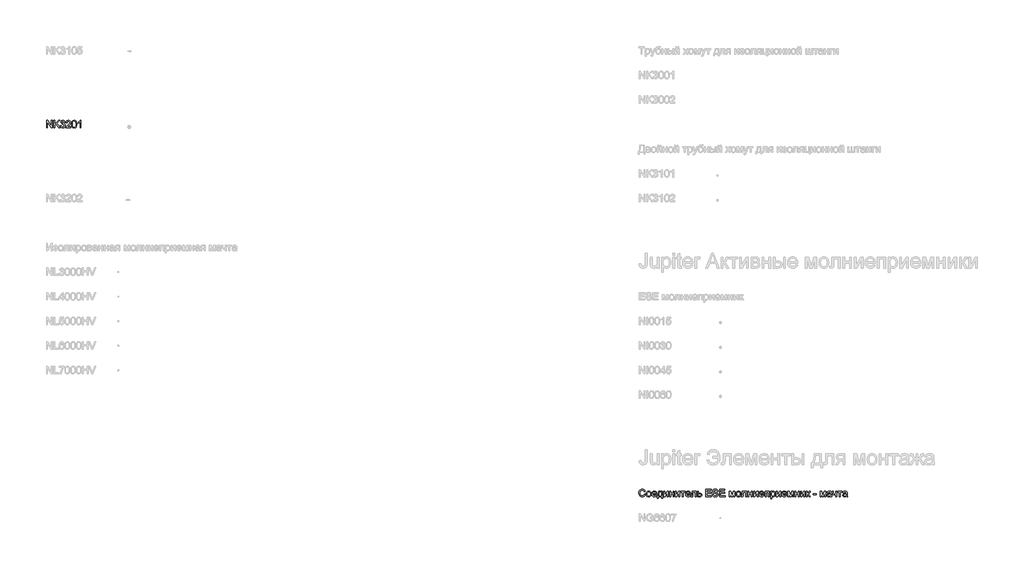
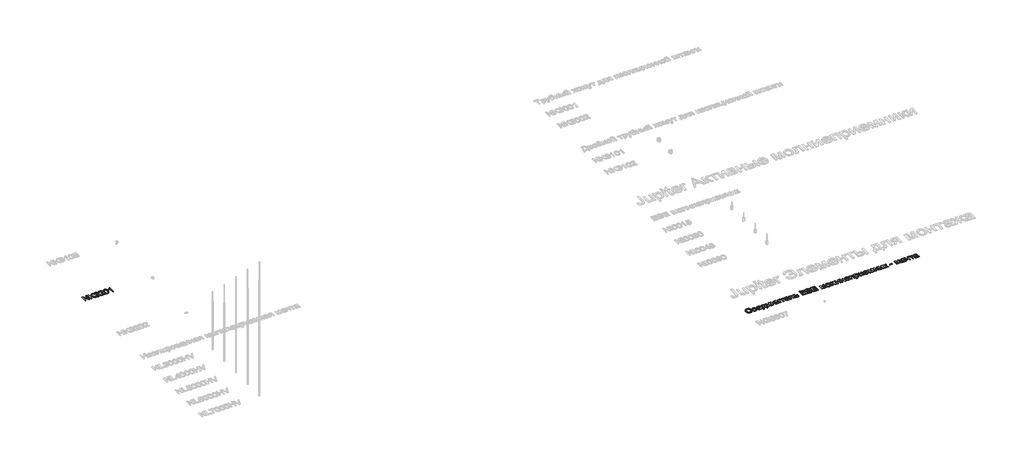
# One storey, part 10 of 124: 2 proxies.
"""IFC4 building model written with IfcOpenShell, lengths in millimetres."""

from ifc_helpers import new_model, si_unit, origin, origin_with_axes, place, context, project, spatial, polyline, outline, extrude, element, save

model = new_model("IFC4")

# Units and contexts
model_context = context("Model", 3, world=origin())
ifc_project = project(units=[si_unit("LENGTHUNIT", "METRE", prefix="MILLI")], contexts=[model_context])

# Site, building, storey
site = spatial("IfcSite", under=ifc_project)
building = spatial("IfcBuilding", under=site)
storey = spatial("IfcBuildingStorey", under=building, Name="Этаж 01", Elevation=0.0)

# Proxies
placement = place(None, origin())
element("IfcBuildingElementProxy", 1, Name="300", ObjectType="300", at=placement, inside=storey, context=model_context, shape_type="SweptSolid", body=[
    extrude(outline(polyline([(1299.8220677, -112548.8731539), (1299.8220677, -112247.5042234), (1340.1419344, -112247.5042234), (1497.5954283, -112486.2596383), (1497.5954283, -112247.5042234), (1535.2665446, -112247.5042234), (1535.2665446, -112548.8731539), (1494.9466779, -112548.8731539), (1337.493184, -112310.0441626), (1337.493184, -112548.8731539), (1299.8220677, -112548.8731539)])), origin_with_axes(), (0.0, 0.0, 1.0), 20.0),
    extrude(outline(polyline([(1601.1909981, -112548.8731539), (1601.1909981, -112247.5042234), (1638.8621144, -112247.5042234), (1638.8621144, -112395.0249035), (1793.3725524, -112247.5042234), (1846.0532541, -112247.5042234), (1716.3380626, -112371.4068794), (1850.7621437, -112548.8731539), (1804.7033179, -112548.8731539), (1689.6298298, -112396.8643135), (1638.8621144, -112445.277584), (1638.8621144, -112548.8731539), (1601.1909981, -112548.8731539)])), origin_with_axes(), (0.0, 0.0, 1.0), 20.0),
    extrude(outline(polyline([(1864.8888123, -112468.8220317), (1902.5599286, -112464.1131422), (1910.9936233, -112487.7863486), (1923.3452613, -112503.7708213), (1940.2218478, -112512.8759007), (1962.2303882, -112515.9109271), (1988.0557043, -112511.7354665), (2007.9949084, -112499.2090845), (2020.7420195, -112480.5206792), (2024.9910566, -112457.8591483), (2020.7788077, -112436.3472486), (2008.1420612, -112418.900445), (1989.0121975, -112407.3397533), (1965.320597, -112403.4861894), (1938.9066697, -112407.6064677), (1943.1005245, -112369.9353514), (1949.1337892, -112370.3768098), (1971.7033496, -112367.6728772), (1991.881677, -112359.5610792), (2006.1187102, -112345.8390807), (2010.864388, -112326.3045468), (2007.4246913, -112310.0349656), (1997.1056014, -112296.837199), (1981.360252, -112288.0908046), (1961.641777, -112285.1753397), (1941.8865139, -112288.1183957), (1925.7364943, -112296.9475636), (1913.9458763, -112311.6628434), (1907.2688181, -112332.2642351), (1869.5977018, -112327.5553456), (1880.689344, -112293.7285961), (1900.426213, -112268.4734972), (1927.4287515, -112252.7465419), (1960.3174018, -112247.5042234), (1983.9998053, -112250.0885945), (2005.7508282, -112257.8417075), (2024.0897457, -112270.0737838), (2037.5358326, -112286.0950447), (2045.7855864, -112304.5535238), (2048.5355043, -112324.0972548), (2045.9235421, -112342.3074136), (2038.0876556, -112358.8253152), (2025.1382094, -112372.8968015), (2007.185568, -112383.7677145), (2030.7668039, -112393.2958581), (2048.2411987, -112409.5194541), (2059.0569293, -112431.5555856), (2062.6621729, -112458.5213359), (2060.8595511, -112477.6328055), (2055.4516858, -112495.235959), (2046.4385769, -112511.3307963), (2033.8202245, -112525.9173174), (2018.4473556, -112538.020635), (2001.1706974, -112546.6658619), (1981.9902499, -112551.852998), (1960.906013, -112553.5820434), (1941.8497257, -112552.1059169), (1924.4856955, -112547.6775374), (1908.8139225, -112540.2969049), (1894.8344067, -112529.9640193), (1883.1127666, -112517.2858861), (1874.2146209, -112502.8695104), (1868.1399694, -112486.7148923), (1864.8888123, -112468.8220317)])), origin_with_axes(), (0.0, 0.0, 1.0), 20.0),
    extrude(outline(polyline([(2288.6888707, -112511.2020376), (2288.6888707, -112548.8731539), (2090.9155101, -112548.8731539), (2094.9622121, -112522.900685), (2104.2512324, -112502.6027959), (2117.8444722, -112482.9119122), (2137.5077648, -112462.3013234), (2165.006944, -112439.2443193), (2205.6579044, -112403.1367015), (2230.0484807, -112376.4836509), (2242.2437688, -112354.8521896), (2246.3088649, -112333.8093395), (2242.4736951, -112314.9461902), (2230.9681857, -112299.2652202), (2213.2822588, -112288.6978098), (2190.9058364, -112285.1753397), (2167.407374, -112288.6150364), (2149.15123, -112298.9341264), (2137.3698091, -112315.3232692), (2133.295516, -112336.9731247), (2095.6243997, -112332.2642351), (2104.7570702, -112295.8255235), (2113.3034288, -112281.2895862), (2124.5031363, -112269.2092612), (2138.0986753, -112259.7133072), (2153.8325283, -112252.9304829), (2191.7151768, -112247.5042234), (2211.9050005, -112249.0125396), (2229.8737367, -112253.5374882), (2245.6213854, -112261.0790691), (2259.1479465, -112271.6372823), (2270.0119617, -112284.4303787), (2277.7719725, -112298.676609), (2282.427979, -112314.3759731), (2283.9799812, -112331.5284711), (2282.3061181, -112349.5454918), (2277.2845289, -112367.2498129), (2268.3725875, -112385.2576365), (2255.0276682, -112404.1851652), (2233.7548918, -112426.7823167), (2201.0593795, -112455.7990091), (2157.7228804, -112492.0353856), (2140.7267323, -112511.2020376), (2288.6888707, -112511.2020376)])), origin_with_axes(), (0.0, 0.0, 1.0), 20.0),
    extrude(outline(polyline([(2326.359987, -112400.6167098), (2329.128299, -112352.3781832), (2337.4332351, -112313.9069236), (2351.1920217, -112284.6143197), (2370.3218855, -112263.9117604), (2394.9607821, -112251.6061077), (2425.2466673, -112247.5042234), (2448.4600212, -112249.9322446), (2469.245354, -112257.2163081), (2486.6277782, -112269.0713054), (2499.6324068, -112285.2121279), (2509.454856, -112305.50082), (2517.2907425, -112329.7994258), (2522.4226964, -112360.6555281), (2524.1333476, -112400.6167098), (2521.3926268, -112448.579325), (2513.1704642, -112486.9586141), (2499.494451, -112516.2788091), (2480.3921784, -112537.0641418), (2455.6980995, -112549.452568), (2425.2466673, -112553.5820434), (2404.4981228, -112551.7886187), (2386.1040231, -112546.4083445), (2370.0643681, -112537.4412209), (2356.3791578, -112524.8872478), (2343.2457706, -112502.1935272), (2333.8647797, -112473.9171974), (2328.2361852, -112440.0582582), (2326.359987, -112400.6167098)]), holes=[polyline([(2364.0311033, -112400.5431334), (2368.4456873, -112459.7997258), (2373.9639172, -112480.0677245), (2381.6894391, -112494.0955248), (2401.4079141, -112510.4570765), (2425.2466673, -112515.9109271), (2449.0854206, -112510.4386824), (2468.8038956, -112494.0219484), (2476.5294175, -112479.9711555), (2482.0476474, -112459.7077553), (2486.4622313, -112400.5431334), (2482.1948002, -112342.6201133), (2476.8605113, -112322.4187932), (2469.3925068, -112308.0575998), (2449.71082, -112290.8959048), (2424.8052089, -112285.1753397), (2401.2239731, -112290.2153231), (2382.2780503, -112305.3352731), (2374.295011, -112320.9702579), (2368.5928401, -112342.0498962), (2364.0311033, -112400.5431334)])]), origin_with_axes(), (0.0, 0.0, 1.0), 20.0),
    extrude(outline(polyline([(2698.3622606, -112548.8731539), (2660.6911443, -112548.8731539), (2660.6911443, -112314.0172882), (2625.0065907, -112339.437934), (2585.3489116, -112358.4574332), (2585.3489116, -112322.846456), (2614.9358211, -112306.7516188), (2640.5679991, -112287.6033609), (2660.7739177, -112267.2410925), (2674.0820489, -112247.5042234), (2698.3622606, -112247.5042234), (2698.3622606, -112548.8731539)])), origin_with_axes(), (0.0, 0.0, 1.0), 20.0),
])
element("IfcBuildingElementProxy", 2, Name="300", ObjectType="300", at=placement, inside=storey, context=model_context, shape_type="SweptSolid", body=[
    extrude(outline(polyline([(25611.7220969, -127441.7459169), (25649.3932132, -127451.4580016), (25641.9390043, -127474.8851869), (25632.0107889, -127495.3555206), (25619.6085672, -127512.8690029), (25604.732339, -127527.4256336), (25587.7177967, -127538.8690629), (25568.9006327, -127547.042941), (25548.2808468, -127551.9472678), (25525.8584392, -127553.5820434), (25482.1632553, -127548.6340306), (25447.4627861, -127533.7899921), (25420.8649178, -127509.5649627), (25401.4775367, -127476.4739772), (25389.6409335, -127437.5704562), (25385.6953991, -127395.9078203), (25390.1559683, -127351.964316), (25403.5376758, -127314.0172882), (25425.141546, -127283.2715504), (25454.268603, -127260.9319163), (25488.8127223, -127247.3294795), (25526.6677796, -127242.7953339), (25567.9717306, -127248.6630517), (25585.9404668, -127255.997699), (25602.1203768, -127266.2662052), (25616.2447462, -127279.1972573), (25628.0468605, -127294.5195424), (25644.6843237, -127332.3378115), (25607.0132074, -127341.3141322), (25593.9533965, -127313.8425442), (25576.1111198, -127294.997789), (25553.2656479, -127284.0992849), (25525.1962516, -127280.4664502), (25492.8410302, -127284.4947581), (25466.261556, -127296.5796816), (25446.0924256, -127315.4520279), (25432.9682355, -127339.8426042), (25425.7669454, -127367.4153598), (25423.3665154, -127395.8342439), (25426.2084038, -127430.6358806), (25434.734069, -127460.7286278), (25449.2654078, -127484.9628543), (25470.124317, -127502.1889287), (25495.1310956, -127512.4804275), (25522.1060429, -127515.9109271), (25553.5507564, -127511.2388258), (25579.7531515, -127497.2225218), (25599.5360058, -127474.0091679), (25611.7220969, -127441.7459169)])), origin_with_axes(), (0.0, 0.0, 1.0), 20.0),
    extrude(outline(polyline([(25687.0643295, -127438.2142497), (25689.1014761, -127409.5516438), (25695.2129157, -127384.8529663), (25705.3986485, -127364.1182174), (25719.6586743, -127347.3473969), (25734.0152692, -127336.6282353), (25749.8617861, -127328.9716913), (25767.1982251, -127324.3777649), (25786.0245862, -127322.846456), (25806.8076197, -127324.7111579), (25825.5994919, -127330.3052635), (25842.4002027, -127339.6287728), (25857.2097523, -127352.6816859), (25869.2969751, -127369.0225442), (25877.9307057, -127388.2098895), (25883.110944, -127410.2437218), (25884.8376901, -127435.124041), (25881.7842696, -127473.1814334), (25872.6240079, -127502.1521405), (25857.6236195, -127523.8479812), (25837.049819, -127540.0807742), (25812.6132574, -127550.2067261), (25786.0245862, -127553.5820434), (25764.9380501, -127551.7242393), (25745.971434, -127546.1508271), (25729.1247379, -127536.8618067), (25714.3979618, -127523.8571782), (25702.4394977, -127507.3576707), (25693.8977376, -127487.5840135), (25688.7726815, -127464.5362065), (25687.0643295, -127438.2142497)]), holes=[polyline([(25724.7354458, -127438.1406733), (25729.0948475, -127472.2341372), (25742.1730524, -127496.523546), (25761.8547391, -127511.0640818), (25786.0245862, -127515.9109271), (25810.0840687, -127511.0364907), (25829.7289673, -127496.4131814), (25842.8071722, -127471.8018759), (25847.1665738, -127436.963451), (25842.779581, -127403.8632684), (25829.6186027, -127379.9049535), (25809.946113, -127365.3644176), (25786.0245862, -127360.5175724), (25761.8547391, -127365.3460235), (25742.1730524, -127379.8313771), (25729.0948475, -127404.0656035), (25724.7354458, -127438.1406733)])]), origin_with_axes(), (0.0, 0.0, 1.0), 20.0),
    extrude(outline(polyline([(26082.1695923, -127482.9487003), (26119.1049447, -127487.6575899), (26105.7968135, -127515.4878628), (26084.5608253, -127536.2915897), (26055.8752267, -127549.25943), (26020.2182644, -127553.5820434), (25996.8439621, -127551.7173416), (25976.0172426, -127546.123236), (25957.738106, -127536.7997267), (25942.0065522, -127523.7468136), (25929.3560101, -127507.3277803), (25920.3199086, -127487.9059102), (25914.8982477, -127465.4812034), (25913.0910274, -127440.0536597), (25914.9166418, -127413.7638926), (25920.393485, -127390.5919255), (25929.521557, -127370.5377582), (25942.3008578, -127353.6013908), (25957.9910249, -127340.1461069), (25975.8516957, -127330.5351897), (25995.8828704, -127324.7686395), (26018.0845488, -127322.846456), (26039.5711566, -127324.7640409), (26059.0022237, -127330.5167956), (26076.3777502, -127340.1047201), (26091.697736, -127353.5278144), (26104.2034246, -127370.4273936), (26113.1360593, -127390.4447727), (26118.4956401, -127413.5799516), (26120.282167, -127439.8329305), (26120.0614379, -127449.9864736), (25950.7621437, -127449.9864736), (25957.282852, -127478.1846285), (25972.4303932, -127498.9147789), (25994.2917807, -127511.6618901), (26020.9540284, -127515.9109271), (26041.0035971, -127513.9427584), (26057.8893807, -127508.0382524), (26071.6113791, -127497.8295271), (26082.1695923, -127482.9487003)]), holes=[polyline([(25950.7621437, -127412.3153573), (26082.6110507, -127412.3153573), (26077.5158851, -127392.4129413), (26067.5278889, -127378.1759081), (26045.5653338, -127364.9321563), (26017.937396, -127360.5175724), (25992.5443413, -127364.0400425), (25971.5474764, -127374.6074528), (25956.9517582, -127391.0793691), (25950.7621437, -127412.3153573)])]), origin_with_axes(), (0.0, 0.0, 1.0), 20.0),
    extrude(outline(polyline([(26190.9155101, -127327.5553456), (26332.1821963, -127327.5553456), (26332.1821963, -127511.2020376), (26360.4355335, -127511.2020376), (26360.4355335, -127610.0887179), (26322.7644172, -127610.0887179), (26322.7644172, -127548.8731539), (26167.3710624, -127548.8731539), (26167.3710624, -127610.0887179), (26129.6999461, -127610.0887179), (26129.6999461, -127511.2020376), (26153.2443938, -127511.2020376), (26170.3601036, -127480.2723588), (26182.3438596, -127439.3546839), (26189.1956618, -127388.4490128), (26190.9155101, -127327.5553456)]), holes=[polyline([(26223.8777369, -127365.2264619), (26220.7875281, -127411.349667), (26215.048569, -127451.0533314), (26206.6608595, -127484.3374549), (26195.6243997, -127511.2020376), (26294.51108, -127511.2020376), (26294.51108, -127365.2264619), (26223.8777369, -127365.2264619)])]), origin_with_axes(), (0.0, 0.0, 1.0), 20.0),
    extrude(outline(polyline([(26402.8155393, -127327.5553456), (26440.4866556, -127327.5553456), (26440.4866556, -127496.339605), (26533.0457656, -127327.5553456), (26581.7533418, -127327.5553456), (26581.7533418, -127548.8731539), (26544.0822255, -127548.8731539), (26544.0822255, -127381.1189641), (26452.1117267, -127548.8731539), (26402.8155393, -127548.8731539), (26402.8155393, -127327.5553456)])), origin_with_axes(), (0.0, 0.0, 1.0), 20.0),
    extrude(outline(polyline([(26638.2600163, -127327.5553456), (26675.9311326, -127327.5553456), (26675.9311326, -127412.3153573), (26774.8178129, -127412.3153573), (26774.8178129, -127327.5553456), (26812.4889292, -127327.5553456), (26812.4889292, -127548.8731539), (26774.8178129, -127548.8731539), (26774.8178129, -127449.9864736), (26675.9311326, -127449.9864736), (26675.9311326, -127548.8731539), (26638.2600163, -127548.8731539), (26638.2600163, -127327.5553456)])), origin_with_axes(), (0.0, 0.0, 1.0), 20.0),
    extrude(outline(polyline([(26868.9956036, -127327.5553456), (26906.6667199, -127327.5553456), (26906.6667199, -127496.339605), (26999.2258299, -127327.5553456), (27047.9334061, -127327.5553456), (27047.9334061, -127548.8731539), (27010.2622898, -127548.8731539), (27010.2622898, -127381.1189641), (26918.291791, -127548.8731539), (26868.9956036, -127548.8731539), (26868.9956036, -127327.5553456)])), origin_with_axes(), (0.0, 0.0, 1.0), 20.0),
    extrude(outline(polyline([(27085.6045224, -127327.5553456), (27264.5423248, -127327.5553456), (27264.5423248, -127365.2264619), (27193.9089818, -127365.2264619), (27193.9089818, -127548.8731539), (27156.2378655, -127548.8731539), (27156.2378655, -127365.2264619), (27085.6045224, -127365.2264619), (27085.6045224, -127327.5553456)])), origin_with_axes(), (0.0, 0.0, 1.0), 20.0),
    extrude(outline(polyline([(27452.456448, -127482.9487003), (27489.3918003, -127487.6575899), (27476.0836691, -127515.4878628), (27454.847681, -127536.2915897), (27426.1620824, -127549.25943), (27390.50512, -127553.5820434), (27367.1308177, -127551.7173416), (27346.3040983, -127546.123236), (27328.0249616, -127536.7997267), (27312.2934078, -127523.7468136), (27299.6428657, -127507.3277803), (27290.6067642, -127487.9059102), (27285.1851033, -127465.4812034), (27283.377883, -127440.0536597), (27285.2034974, -127413.7638926), (27290.6803406, -127390.5919255), (27299.8084126, -127370.5377582), (27312.5877134, -127353.6013908), (27328.2778805, -127340.1461069), (27346.1385514, -127330.5351897), (27366.169726, -127324.7686395), (27388.3714044, -127322.846456), (27409.8580122, -127324.7640409), (27429.2890793, -127330.5167956), (27446.6646058, -127340.1047201), (27461.9845917, -127353.5278144), (27474.4902802, -127370.4273936), (27483.4229149, -127390.4447727), (27488.7824957, -127413.5799516), (27490.5690227, -127439.8329305), (27490.3482935, -127449.9864736), (27321.0489993, -127449.9864736), (27327.5697077, -127478.1846285), (27342.7172488, -127498.9147789), (27364.5786364, -127511.6618901), (27391.240884, -127515.9109271), (27411.2904527, -127513.9427584), (27428.1762363, -127508.0382524), (27441.8982347, -127497.8295271), (27452.456448, -127482.9487003)]), holes=[polyline([(27321.0489993, -127412.3153573), (27452.8979064, -127412.3153573), (27447.8027407, -127392.4129413), (27437.8147446, -127378.1759081), (27415.8521895, -127364.9321563), (27388.2242516, -127360.5175724), (27362.8311969, -127364.0400425), (27341.834332, -127374.6074528), (27327.2386139, -127391.0793691), (27321.0489993, -127412.3153573)])]), origin_with_axes(), (0.0, 0.0, 1.0), 20.0),
    extrude(outline(polyline([(27547.0756971, -127327.5553456), (27716.5957205, -127327.5553456), (27716.5957205, -127548.6524247), (27678.9246042, -127548.6524247), (27678.9246042, -127365.2264619), (27584.7468134, -127365.2264619), (27584.7468134, -127470.8085945), (27582.2084277, -127519.5161707), (27577.4535529, -127530.5434335), (27568.2657001, -127540.0807742), (27554.3229724, -127546.675059), (27535.3034733, -127548.8731539), (27504.6956913, -127546.9601675), (27504.6956913, -127511.2020376), (27521.5446867, -127511.2020376), (27538.5776231, -127508.884381), (27545.38344, -127501.5267411), (27547.0756971, -127468.6748789), (27547.0756971, -127327.5553456)])), origin_with_axes(), (0.0, 0.0, 1.0), 20.0),
    extrude(outline(polyline([(27773.102395, -127327.5553456), (27810.7735113, -127327.5553456), (27810.7735113, -127407.6064677), (27854.1835867, -127407.6064677), (27891.8179148, -127412.3245543), (27906.965456, -127418.2221626), (27919.6665819, -127426.4788141), (27929.7097603, -127436.8094004), (27936.8834592, -127448.9288128), (27942.6224184, -127478.5341164), (27937.7387849, -127505.4906696), (27923.0878844, -127528.234974), (27911.8559872, -127537.2641777), (27897.6948297, -127543.7136089), (27860.5847334, -127548.8731539), (27773.102395, -127548.8731539), (27773.102395, -127327.5553456)]), holes=[polyline([(27810.7735113, -127511.2020376), (27845.94303, -127511.2020376), (27873.230677, -127509.2246719), (27891.3764564, -127503.2925747), (27901.5575906, -127493.1666228), (27904.951302, -127478.6076928), (27902.4405074, -127466.3020401), (27894.9081236, -127455.4311271), (27878.767301, -127447.8159698), (27850.4311904, -127445.277584), (27810.7735113, -127445.277584), (27810.7735113, -127511.2020376)])]), origin_with_axes(), (0.0, 0.0, 1.0), 20.0),
    extrude(outline(polyline([(28112.1424417, -127548.8731539), (28112.1424417, -127247.5042234), (28328.7513605, -127247.5042234), (28328.7513605, -127285.1753397), (28149.813558, -127285.1753397), (28149.813558, -127374.644241), (28319.3335814, -127374.644241), (28319.3335814, -127412.3153573), (28149.813558, -127412.3153573), (28149.813558, -127511.2020376), (28333.46025, -127511.2020376), (28333.46025, -127548.8731539), (28112.1424417, -127548.8731539)])), origin_with_axes(), (0.0, 0.0, 1.0), 20.0),
    extrude(outline(polyline([(28375.8402559, -127445.277584), (28413.5113722, -127445.277584), (28417.8339856, -127466.1824784), (28425.651478, -127482.9854885), (28437.8467662, -127496.3212109), (28455.3027668, -127506.8242418), (28476.6399226, -127513.6392558), (28500.4786758, -127515.9109271), (28521.4663437, -127514.1910788), (28539.8420493, -127509.0315338), (28554.7320731, -127500.8645535), (28565.2626952, -127490.1223993), (28571.5258862, -127477.7891554), (28573.6136165, -127464.8489062), (28572.050118, -127452.2397508), (28567.3596226, -127441.3412467), (28557.8314789, -127432.0430293), (28541.7550357, -127424.2347339), (28486.9038302, -127409.8505479), (28450.8973799, -127400.3316013), (28427.85877, -127391.2725072), (28409.1059853, -127378.5989724), (28395.8162482, -127363.2398991), (28387.8975883, -127345.5263811), (28385.258035, -127325.789512), (28388.5229877, -127303.7257893), (28398.3178458, -127283.1519888), (28414.3850919, -127265.7143822), (28436.4672087, -127253.0592416), (28462.9731064, -127245.3613108), (28492.3116955, -127242.7953339), (28524.0966999, -127245.4808725), (28551.9085788, -127253.5374882), (28574.7540507, -127266.7996341), (28591.6398342, -127285.1017633), (28602.3268062, -127307.3034418), (28606.5758433, -127332.2642351), (28568.9047269, -127332.2642351), (28561.9885454, -127309.7866452), (28547.5675712, -127293.5630492), (28525.034799, -127283.7406), (28493.7832235, -127280.4664502), (28461.795884, -127283.7038118), (28439.851723, -127293.4158964), (28427.1597942, -127307.7081119), (28422.9291513, -127324.685866), (28425.9273895, -127339.1620225), (28434.9221043, -127350.8054877), (28456.1856836, -127361.2165481), (28496.4319739, -127371.8483378), (28537.9658512, -127381.9466986), (28563.0921914, -127390.7574724), (28584.5673029, -127404.4242885), (28599.5492971, -127421.291678), (28608.3508739, -127441.1756998), (28611.2847328, -127463.892413), (28607.9094155, -127487.1149639), (28597.7834636, -127508.9579574), (28581.3207443, -127527.7567274), (28558.9351249, -127541.8466078), (28532.0153599, -127550.6481845), (28501.9502038, -127553.5820434), (28465.0424427, -127550.4182583), (28434.6645869, -127540.9269028), (28410.4671487, -127525.0711888), (28392.1006401, -127502.8143281), (28380.3100221, -127475.701425), (28375.8402559, -127445.277584)])), origin_with_axes(), (0.0, 0.0, 1.0), 20.0),
    extrude(outline(polyline([(28667.7914072, -127548.8731539), (28667.7914072, -127247.5042234), (28884.400326, -127247.5042234), (28884.400326, -127285.1753397), (28705.4625236, -127285.1753397), (28705.4625236, -127374.644241), (28874.9825469, -127374.644241), (28874.9825469, -127412.3153573), (28705.4625236, -127412.3153573), (28705.4625236, -127511.2020376), (28889.1092155, -127511.2020376), (28889.1092155, -127548.8731539), (28667.7914072, -127548.8731539)])), origin_with_axes(), (0.0, 0.0, 1.0), 20.0),
    extrude(outline(polyline([(29058.6292389, -127327.5553456), (29123.4500465, -127327.5553456), (29173.4084214, -127504.7273145), (29227.2663455, -127327.5553456), (29289.3648263, -127327.5553456), (29289.3648263, -127548.8731539), (29251.69371, -127548.8731539), (29251.69371, -127370.6711154), (29197.5414803, -127548.8731539), (29148.0981402, -127548.8731539), (29096.3003552, -127362.1362531), (29096.3003552, -127548.8731539), (29058.6292389, -127548.8731539), (29058.6292389, -127327.5553456)])), origin_with_axes(), (0.0, 0.0, 1.0), 20.0),
    extrude(outline(polyline([(29336.4537217, -127438.2142497), (29338.4908682, -127409.5516438), (29344.6023079, -127384.8529663), (29354.7880406, -127364.1182174), (29369.0480665, -127347.3473969), (29383.4046613, -127336.6282353), (29399.2511783, -127328.9716913), (29416.5876173, -127324.3777649), (29435.4139784, -127322.846456), (29456.1970118, -127324.7111579), (29474.988884, -127330.3052635), (29491.7895949, -127339.6287728), (29506.5991445, -127352.6816859), (29518.6863673, -127369.0225442), (29527.3200978, -127388.2098895), (29532.5003362, -127410.2437218), (29534.2270823, -127435.124041), (29531.1736617, -127473.1814334), (29522.0134, -127502.1521405), (29507.0130117, -127523.8479812), (29486.4392111, -127540.0807742), (29462.0026496, -127550.2067261), (29435.4139784, -127553.5820434), (29414.3274423, -127551.7242393), (29395.3608262, -127546.1508271), (29378.51413, -127536.8618067), (29363.7873539, -127523.8571782), (29351.8288898, -127507.3576707), (29343.2871297, -127487.5840135), (29338.1620737, -127464.5362065), (29336.4537217, -127438.2142497)]), holes=[polyline([(29374.124838, -127438.1406733), (29378.4842396, -127472.2341372), (29391.5624446, -127496.523546), (29411.2441313, -127511.0640818), (29435.4139784, -127515.9109271), (29459.4734609, -127511.0364907), (29479.1183594, -127496.4131814), (29492.1965643, -127471.8018759), (29496.555966, -127436.963451), (29492.1689732, -127403.8632684), (29479.0079948, -127379.9049535), (29459.3355051, -127365.3644176), (29435.4139784, -127360.5175724), (29411.2441313, -127365.3460235), (29391.5624446, -127379.8313771), (29378.4842396, -127404.0656035), (29374.124838, -127438.1406733)])]), origin_with_axes(), (0.0, 0.0, 1.0), 20.0),
    extrude(outline(polyline([(29595.4426463, -127327.5553456), (29764.9626697, -127327.5553456), (29764.9626697, -127548.6524247), (29727.2915534, -127548.6524247), (29727.2915534, -127365.2264619), (29633.1137626, -127365.2264619), (29633.1137626, -127470.8085945), (29630.5753768, -127519.5161707), (29625.820502, -127530.5434335), (29616.6326492, -127540.0807742), (29602.6899216, -127546.675059), (29583.6704224, -127548.8731539), (29553.0626404, -127546.9601675), (29553.0626404, -127511.2020376), (29569.9116358, -127511.2020376), (29586.9445722, -127508.884381), (29593.7503891, -127501.5267411), (29595.4426463, -127468.6748789), (29595.4426463, -127327.5553456)])), origin_with_axes(), (0.0, 0.0, 1.0), 20.0),
    extrude(outline(polyline([(29821.4693441, -127327.5553456), (29859.1404604, -127327.5553456), (29859.1404604, -127412.3153573), (29958.0271407, -127412.3153573), (29958.0271407, -127327.5553456), (29995.698257, -127327.5553456), (29995.698257, -127548.8731539), (29958.0271407, -127548.8731539), (29958.0271407, -127449.9864736), (29859.1404604, -127449.9864736), (29859.1404604, -127548.8731539), (29821.4693441, -127548.8731539), (29821.4693441, -127327.5553456)])), origin_with_axes(), (0.0, 0.0, 1.0), 20.0),
    extrude(outline(polyline([(30052.2049315, -127327.5553456), (30089.8760478, -127327.5553456), (30089.8760478, -127496.339605), (30182.4351578, -127327.5553456), (30231.142734, -127327.5553456), (30231.142734, -127548.8731539), (30193.4716176, -127548.8731539), (30193.4716176, -127381.1189641), (30101.5011189, -127548.8731539), (30052.2049315, -127548.8731539), (30052.2049315, -127327.5553456)])), origin_with_axes(), (0.0, 0.0, 1.0), 20.0),
    extrude(outline(polyline([(30442.6013048, -127482.9487003), (30479.5366571, -127487.6575899), (30466.2285259, -127515.4878628), (30444.9925377, -127536.2915897), (30416.3069392, -127549.25943), (30380.6499768, -127553.5820434), (30357.2756745, -127551.7173416), (30336.4489551, -127546.123236), (30318.1698184, -127536.7997267), (30302.4382646, -127523.7468136), (30289.7877225, -127507.3277803), (30280.751621, -127487.9059102), (30275.3299601, -127465.4812034), (30273.5227398, -127440.0536597), (30275.3483542, -127413.7638926), (30280.8251974, -127390.5919255), (30289.9532694, -127370.5377582), (30302.7325702, -127353.6013908), (30318.4227373, -127340.1461069), (30336.2834082, -127330.5351897), (30356.3145828, -127324.7686395), (30378.5162612, -127322.846456), (30400.002869, -127324.7640409), (30419.4339361, -127330.5167956), (30436.8094626, -127340.1047201), (30452.1294485, -127353.5278144), (30464.635137, -127370.4273936), (30473.5677717, -127390.4447727), (30478.9273525, -127413.5799516), (30480.7138795, -127439.8329305), (30480.4931503, -127449.9864736), (30311.1938561, -127449.9864736), (30317.7145645, -127478.1846285), (30332.8621056, -127498.9147789), (30354.7234932, -127511.6618901), (30381.3857408, -127515.9109271), (30401.4353095, -127513.9427584), (30418.3210931, -127508.0382524), (30432.0430915, -127497.8295271), (30442.6013048, -127482.9487003)]), holes=[polyline([(30311.1938561, -127412.3153573), (30443.0427632, -127412.3153573), (30437.9475975, -127392.4129413), (30427.9596014, -127378.1759081), (30405.9970463, -127364.9321563), (30378.3691084, -127360.5175724), (30352.9760537, -127364.0400425), (30331.9791888, -127374.6074528), (30317.3834707, -127391.0793691), (30311.1938561, -127412.3153573)])]), origin_with_axes(), (0.0, 0.0, 1.0), 20.0),
    extrude(outline(polyline([(30518.3849958, -127327.5553456), (30687.9050192, -127327.5553456), (30687.9050192, -127548.8731539), (30650.2339029, -127548.8731539), (30650.2339029, -127365.2264619), (30556.0561121, -127365.2264619), (30556.0561121, -127548.8731539), (30518.3849958, -127548.8731539), (30518.3849958, -127327.5553456)])), origin_with_axes(), (0.0, 0.0, 1.0), 20.0),
    extrude(outline(polyline([(30744.4116936, -127633.6331656), (30744.4116936, -127327.5553456), (30782.0828099, -127327.5553456), (30782.0828099, -127364.4906979), (30794.3700686, -127346.2713421), (30808.1288552, -127333.2575165), (30824.1685102, -127325.4492212), (30843.2983739, -127322.846456), (30868.7742021, -127326.4884878), (30891.0494569, -127337.4145831), (30909.1860393, -127354.9625542), (30922.2458501, -127378.4702137), (30930.1369189, -127406.2269103), (30932.7672752, -127436.5219926), (30929.796628, -127468.7392583), (30920.8846867, -127497.5536156), (30906.3165597, -127521.5027334), (30886.3773556, -127539.124281), (30863.1548046, -127549.9676028), (30838.7366372, -127553.5820434), (30821.4185923, -127551.1632193), (30805.9583514, -127543.906747), (30792.7237966, -127532.9530605), (30782.0828099, -127519.4425943), (30782.0828099, -127633.6331656), (30744.4116936, -127633.6331656)]), holes=[polyline([(30782.0828099, -127439.9800833), (30786.157103, -127473.7516505), (30798.3799823, -127497.3696746), (30816.4153971, -127511.275614), (30837.9272968, -127515.9109271), (30859.7886844, -127511.1100671), (30878.2839517, -127496.707487), (30890.8931071, -127472.2249402), (30895.0961588, -127437.1841801), (30890.9942746, -127403.596554), (30878.6886219, -127379.6474361), (30860.6807982, -127365.3000383), (30839.4724012, -127360.5175724), (30818.1812307, -127365.6035409), (30799.4836283, -127380.8614467), (30786.4330145, -127405.813043), (30782.0828099, -127439.9800833)])]), origin_with_axes(), (0.0, 0.0, 1.0), 20.0),
    extrude(outline(polyline([(30975.147281, -127327.5553456), (31012.8183973, -127327.5553456), (31012.8183973, -127496.339605), (31105.3775073, -127327.5553456), (31154.0850835, -127327.5553456), (31154.0850835, -127548.8731539), (31116.4139671, -127548.8731539), (31116.4139671, -127381.1189641), (31024.4434684, -127548.8731539), (30975.147281, -127548.8731539), (30975.147281, -127327.5553456)])), origin_with_axes(), (0.0, 0.0, 1.0), 20.0),
    extrude(outline(polyline([(31365.5436543, -127482.9487003), (31402.4790066, -127487.6575899), (31389.1708754, -127515.4878628), (31367.9348872, -127536.2915897), (31339.2492887, -127549.25943), (31303.5923263, -127553.5820434), (31280.218024, -127551.7173416), (31259.3913046, -127546.123236), (31241.1121679, -127536.7997267), (31225.3806141, -127523.7468136), (31212.730072, -127507.3277803), (31203.6939705, -127487.9059102), (31198.2723096, -127465.4812034), (31196.4650893, -127440.0536597), (31198.2907037, -127413.7638926), (31203.7675469, -127390.5919255), (31212.8956189, -127370.5377582), (31225.6749197, -127353.6013908), (31241.3650868, -127340.1461069), (31259.2257577, -127330.5351897), (31279.2569323, -127324.7686395), (31301.4586107, -127322.846456), (31322.9452185, -127324.7640409), (31342.3762856, -127330.5167956), (31359.7518121, -127340.1047201), (31375.071798, -127353.5278144), (31387.5774865, -127370.4273936), (31396.5101212, -127390.4447727), (31401.869702, -127413.5799516), (31403.656229, -127439.8329305), (31403.4354998, -127449.9864736), (31234.1362056, -127449.9864736), (31240.656914, -127478.1846285), (31255.8044551, -127498.9147789), (31277.6658427, -127511.6618901), (31304.3280903, -127515.9109271), (31324.377659, -127513.9427584), (31341.2634426, -127508.0382524), (31354.985441, -127497.8295271), (31365.5436543, -127482.9487003)]), holes=[polyline([(31234.1362056, -127412.3153573), (31365.9851127, -127412.3153573), (31360.889947, -127392.4129413), (31350.9019509, -127378.1759081), (31328.9393958, -127364.9321563), (31301.3114579, -127360.5175724), (31275.9184032, -127364.0400425), (31254.9215383, -127374.6074528), (31240.3258202, -127391.0793691), (31234.1362056, -127412.3153573)])]), origin_with_axes(), (0.0, 0.0, 1.0), 20.0),
    extrude(outline(polyline([(31441.3273453, -127327.5553456), (31506.1481528, -127327.5553456), (31556.1065278, -127504.7273145), (31609.9644519, -127327.5553456), (31672.0629327, -127327.5553456), (31672.0629327, -127548.8731539), (31634.3918164, -127548.8731539), (31634.3918164, -127370.6711154), (31580.2395867, -127548.8731539), (31530.7962465, -127548.8731539), (31478.9984616, -127362.1362531), (31478.9984616, -127548.8731539), (31441.3273453, -127548.8731539), (31441.3273453, -127327.5553456)])), origin_with_axes(), (0.0, 0.0, 1.0), 20.0),
    extrude(outline(polyline([(31728.5696071, -127327.5553456), (31766.2407234, -127327.5553456), (31766.2407234, -127412.3153573), (31865.1274037, -127412.3153573), (31865.1274037, -127327.5553456), (31902.79852, -127327.5553456), (31902.79852, -127548.8731539), (31865.1274037, -127548.8731539), (31865.1274037, -127449.9864736), (31766.2407234, -127449.9864736), (31766.2407234, -127548.8731539), (31728.5696071, -127548.8731539), (31728.5696071, -127327.5553456)])), origin_with_axes(), (0.0, 0.0, 1.0), 20.0),
    extrude(outline(polyline([(31959.3051945, -127327.5553456), (31996.9763108, -127327.5553456), (31996.9763108, -127496.339605), (32089.5354208, -127327.5553456), (32138.2429969, -127327.5553456), (32138.2429969, -127548.8731539), (32100.5718806, -127548.8731539), (32100.5718806, -127381.1189641), (32008.6013818, -127548.8731539), (31959.3051945, -127548.8731539), (31959.3051945, -127327.5553456)])), origin_with_axes(), (0.0, 0.0, 1.0), 20.0),
    extrude(outline(polyline([(32194.7496714, -127327.5553456), (32232.4207877, -127327.5553456), (32232.4207877, -127421.7331364), (32247.7430728, -127420.0408792), (32257.6574926, -127414.9641076), (32266.4314782, -127401.7203558), (32278.3324607, -127375.5271578), (32295.5125499, -127341.4980732), (32310.6692881, -127330.4248251), (32338.2236495, -127327.5553456), (32345.4341366, -127327.5553456), (32345.4341366, -127365.4471911), (32335.2805936, -127365.2264619), (32316.8864938, -127369.1995874), (32303.9370476, -127393.9948339), (32288.7435212, -127420.8134314), (32267.4431537, -127433.9468186), (32279.3809244, -127439.2489178), (32291.2083305, -127448.6069161), (32314.532049, -127479.4906096), (32354.8519157, -127548.8731539), (32312.0304515, -127548.8731539), (32272.5199252, -127480.9621376), (32252.6542974, -127452.2305538), (32243.3652771, -127447.0158265), (32232.4207877, -127445.277584), (32232.4207877, -127548.8731539), (32194.7496714, -127548.8731539), (32194.7496714, -127327.5553456)])), origin_with_axes(), (0.0, 0.0, 1.0), 20.0),
    extrude(outline(polyline([(32477.2830437, -127459.4042527), (32477.2830437, -127421.7331364), (32595.0052822, -127421.7331364), (32595.0052822, -127459.4042527), (32477.2830437, -127459.4042527)])), origin_with_axes(), (0.0, 0.0, 1.0), 20.0),
    extrude(outline(polyline([(32755.1075265, -127327.5553456), (32819.928334, -127327.5553456), (32869.886709, -127504.7273145), (32923.744633, -127327.5553456), (32985.8431138, -127327.5553456), (32985.8431138, -127548.8731539), (32948.1719975, -127548.8731539), (32948.1719975, -127370.6711154), (32894.0197678, -127548.8731539), (32844.5764277, -127548.8731539), (32792.7786428, -127362.1362531), (32792.7786428, -127548.8731539), (32755.1075265, -127548.8731539), (32755.1075265, -127327.5553456)])), origin_with_axes(), (0.0, 0.0, 1.0), 20.0),
    extrude(outline(polyline([(33183.6164744, -127520.6198167), (33165.6178478, -127536.0524664), (33147.0857923, -127546.1508271), (33127.5972436, -127551.7242393), (33106.7291375, -127553.5820434), (33075.2476357, -127549.1122772), (33052.0250848, -127535.7029785), (33037.7052781, -127515.34071), (33032.9320092, -127490.0120347), (33034.734631, -127474.395444), (33040.1424963, -127460.213593), (33048.4842206, -127448.0734872), (33059.0884191, -127438.5821317), (33085.4655581, -127426.2212967), (33118.0599029, -127420.555914), (33156.5771478, -127414.5962256), (33183.3957452, -127407.6064677), (33183.6164744, -127399.2187582), (33181.0229064, -127382.4065511), (33173.2422022, -127371.4068794), (33155.8413838, -127363.2398991), (33131.5979603, -127360.5175724), (33109.1571586, -127362.3293912), (33093.4853856, -127367.7648477), (33082.7984137, -127377.8172232), (33075.3120151, -127393.4797991), (33037.6408988, -127388.7709096), (33044.1800012, -127368.1695179), (33053.9380711, -127351.9827101), (33067.8256165, -127339.6034809), (33086.7531451, -127330.4248251), (33109.9021197, -127324.7410483), (33136.4540027, -127322.846456), (33161.9206338, -127324.5203191), (33182.1081583, -127329.5419084), (33197.3292758, -127337.0926863), (33207.8966861, -127346.3541155), (33214.9048381, -127357.8044426), (33219.4481808, -127371.9219142), (33221.2875907, -127404.884141), (33221.2875907, -127451.7523072), (33223.2005771, -127517.1985141), (33230.7053698, -127548.8731539), (33193.0342535, -127548.8731539), (33183.6164744, -127520.6198167)]), holes=[polyline([(33183.6164744, -127445.277584), (33122.8423688, -127456.8290787), (33090.4319651, -127462.9359198), (33075.7534735, -127472.8687337), (33070.6031255, -127487.3632843), (33073.4082257, -127498.565291), (33081.8235264, -127507.7439468), (33095.6650864, -127513.869182), (33114.7489649, -127515.9109271), (33134.9824747, -127513.6576499), (33152.8615396, -127506.8978182), (33167.3560903, -127496.9374132), (33177.4360569, -127485.0824159), (33181.9058232, -127472.8687337), (33183.3957452, -127455.9461619), (33183.6164744, -127445.277584)])]), origin_with_axes(), (0.0, 0.0, 1.0), 20.0),
    extrude(outline(polyline([(33258.9587071, -127327.5553456), (33296.6298234, -127327.5553456), (33296.6298234, -127370.0089278), (33299.6832439, -127409.8137597), (33304.8795771, -127421.3836485), (33314.3617355, -127431.3716446), (33327.4583346, -127438.269432), (33343.4979895, -127440.5686945), (33366.5457965, -127437.717609), (33395.5165037, -127429.1643527), (33395.5165037, -127327.5553456), (33433.18762, -127327.5553456), (33433.18762, -127548.8731539), (33395.5165037, -127548.8731539), (33395.5165037, -127465.2903646), (33363.3636173, -127475.0024493), (33333.4180229, -127478.2398108), (33310.6369303, -127474.8644935), (33290.7069232, -127464.7385416), (33275.173106, -127449.7197591), (33265.580583, -127431.6659502), (33260.614176, -127411.1197408), (33258.9587071, -127388.6237568), (33258.9587071, -127327.5553456)])), origin_with_axes(), (0.0, 0.0, 1.0), 20.0),
    extrude(outline(polyline([(33470.8587363, -127327.5553456), (33649.7965387, -127327.5553456), (33649.7965387, -127365.2264619), (33579.1631957, -127365.2264619), (33579.1631957, -127548.8731539), (33541.4920794, -127548.8731539), (33541.4920794, -127365.2264619), (33470.8587363, -127365.2264619), (33470.8587363, -127327.5553456)])), origin_with_axes(), (0.0, 0.0, 1.0), 20.0),
    extrude(outline(polyline([(33824.0254516, -127520.6198167), (33806.026825, -127536.0524664), (33787.4947695, -127546.1508271), (33768.0062208, -127551.7242393), (33747.1381147, -127553.5820434), (33715.6566129, -127549.1122772), (33692.434062, -127535.7029785), (33678.1142553, -127515.34071), (33673.3409864, -127490.0120347), (33675.1436082, -127474.395444), (33680.5514735, -127460.213593), (33688.8931978, -127448.0734872), (33699.4973963, -127438.5821317), (33725.8745353, -127426.2212967), (33758.4688801, -127420.555914), (33796.986125, -127414.5962256), (33823.8047224, -127407.6064677), (33824.0254516, -127399.2187582), (33821.4318836, -127382.4065511), (33813.6511794, -127371.4068794), (33796.250361, -127363.2398991), (33772.0069375, -127360.5175724), (33749.5661358, -127362.3293912), (33733.8943628, -127367.7648477), (33723.2073909, -127377.8172232), (33715.7209923, -127393.4797991), (33678.049876, -127388.7709096), (33684.5889784, -127368.1695179), (33694.3470483, -127351.9827101), (33708.2345937, -127339.6034809), (33727.1621223, -127330.4248251), (33750.3110969, -127324.7410483), (33776.8629799, -127322.846456), (33802.329611, -127324.5203191), (33822.5171355, -127329.5419084), (33837.738253, -127337.0926863), (33848.3056633, -127346.3541155), (33855.3138153, -127357.8044426), (33859.857158, -127371.9219142), (33861.696568, -127404.884141), (33861.696568, -127451.7523072), (33863.6095543, -127517.1985141), (33871.114347, -127548.8731539), (33833.4432307, -127548.8731539), (33824.0254516, -127520.6198167)]), holes=[polyline([(33824.0254516, -127445.277584), (33763.251346, -127456.8290787), (33730.8409423, -127462.9359198), (33716.1624507, -127472.8687337), (33711.0121027, -127487.3632843), (33713.8172029, -127498.565291), (33722.2325036, -127507.7439468), (33736.0740636, -127513.869182), (33755.1579421, -127515.9109271), (33775.3914519, -127513.6576499), (33793.2705168, -127506.8978182), (33807.7650675, -127496.9374132), (33817.8450341, -127485.0824159), (33822.3148004, -127472.8687337), (33823.8047224, -127455.9461619), (33824.0254516, -127445.277584)])]), origin_with_axes(), (0.0, 0.0, 1.0), 20.0),
])

save(model, "model.ifc")
